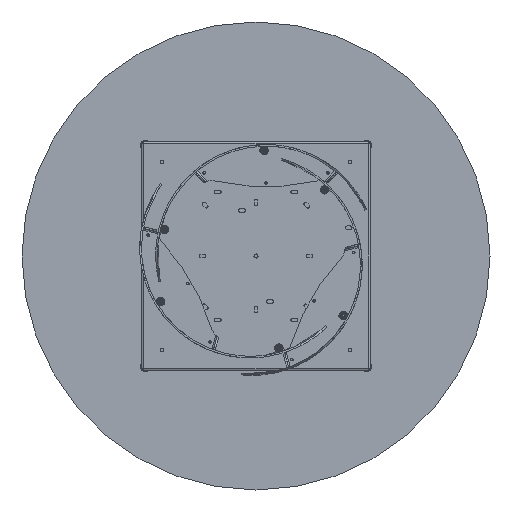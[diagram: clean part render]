
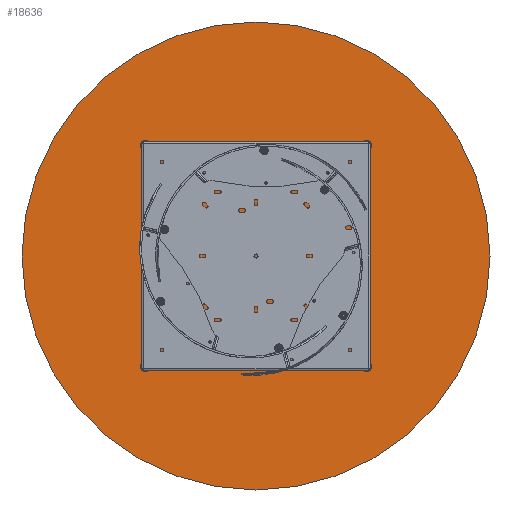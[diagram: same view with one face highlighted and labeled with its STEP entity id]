
A CAD part, front view. The second image highlights one B-rep face of the part: STEP entity #18636.
In plain terms, the highlighted planar face has unit normal (0, -1, 0).
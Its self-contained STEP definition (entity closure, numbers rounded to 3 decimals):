
#734 = ORIENTED_EDGE ( 'NONE', *, *, #14505, .T. ) ;
#4586 = DIRECTION ( 'NONE',  ( 0., -1., 0. ) ) ;
#4680 = CARTESIAN_POINT ( 'NONE',  ( 0., 0., -700. ) ) ;
#6003 = ORIENTED_EDGE ( 'NONE', *, *, #17090, .T. ) ;
#6442 = DIRECTION ( 'NONE',  ( 0., 0., -1. ) ) ;
#6759 = CARTESIAN_POINT ( 'NONE',  ( 0., 0., 0. ) ) ;
#6963 = PLANE ( 'NONE',  #10878 ) ;
#7249 = AXIS2_PLACEMENT_3D ( 'NONE', #7793, #4586, #6442 ) ;
#7793 = CARTESIAN_POINT ( 'NONE',  ( 0., 0., 0. ) ) ;
#8461 = EDGE_LOOP ( 'NONE', ( #6003, #734 ) ) ;
#8698 = CARTESIAN_POINT ( 'NONE',  ( 0., 0., 0. ) ) ;
#9253 = AXIS2_PLACEMENT_3D ( 'NONE', #8698, #19122, #19210 ) ;
#9898 = CIRCLE ( 'NONE', #9253, 700. ) ;
#10512 = VERTEX_POINT ( 'NONE', #4680 ) ;
#10878 = AXIS2_PLACEMENT_3D ( 'NONE', #6759, #15984, #17361 ) ;
#13383 = VERTEX_POINT ( 'NONE', #15819 ) ;
#14419 = FACE_OUTER_BOUND ( 'NONE', #8461, .T. ) ;
#14505 = EDGE_CURVE ( 'NONE', #13383, #10512, #15091, .T. ) ;
#15091 = CIRCLE ( 'NONE', #7249, 700. ) ;
#15819 = CARTESIAN_POINT ( 'NONE',  ( 0., 0., 700. ) ) ;
#15984 = DIRECTION ( 'NONE',  ( 0., -1., 0. ) ) ;
#17090 = EDGE_CURVE ( 'NONE', #10512, #13383, #9898, .T. ) ;
#17361 = DIRECTION ( 'NONE',  ( 0., 0., -1. ) ) ;
#18636 = ADVANCED_FACE ( 'NONE', ( #14419 ), #6963, .T. ) ;
#19122 = DIRECTION ( 'NONE',  ( 0., -1., 0. ) ) ;
#19210 = DIRECTION ( 'NONE',  ( 0., 0., -1. ) ) ;
